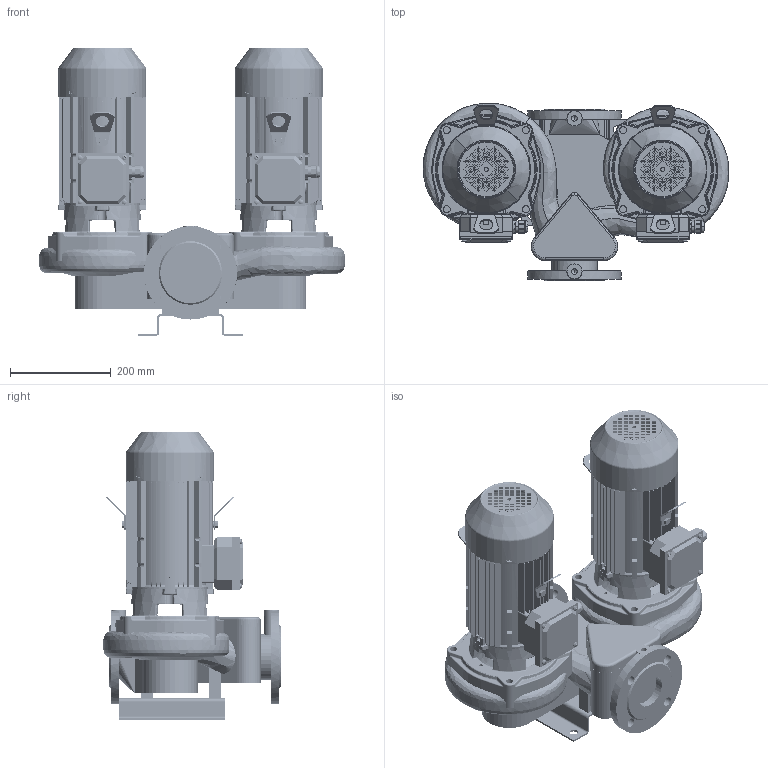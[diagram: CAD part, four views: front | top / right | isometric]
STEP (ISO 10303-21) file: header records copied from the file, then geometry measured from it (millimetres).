
FILE_DESCRIPTION(('STEP AP214'),'1');
FILE_NAME('export.stp','2018-05-30T07:47:34',(' '),(' '),'Spatial InterOp 3D',' ',' ');
FILE_SCHEMA(('AUTOMOTIVE_DESIGN { 1 0 10303 214 1 1 1 1 }'));
Length unit declared in the file: millimetre
Products named in the file (29): W_T65A4150KP90; V_TLL65AB80A1102; V_PPT65AB; V_JALKA35973; 160024; 160004_Valu; V_MKP90-2_F19; 480039; 480038___; 160141; 160137; 160138; 160139; 160140; Koura_Ale_M5; Plug_Blind_M20; Sealing_Plug_M20; DIN_7985-M5X8; DIN_7985-M5X12; 480037; 480036___; 160135; 160134; DIN_EN_24017_-_M8_16-Stainless_S
Assembly tree (54 placements, depth 4):
  W_T65A4150KP90
    V_TLL65AB80A1102  x2
    V_PPT65AB
    V_JALKA35973
    V_MKP90-2_F19
      160024
        160004_Valu
      480039
        480038___
      160141
        160137
        160138
        160139
        160140
        Koura_Ale_M5
        Plug_Blind_M20
        Sealing_Plug_M20
        DIN_7985-M5X8
        DIN_7985-M5X12  x4
      480037
        480036___
      160135
      160134  x2
      DIN_EN_24017_-_M8_16-Stainless_S  x2
    V_MKP90-2_F19
      160024
        160004_Valu
      480039
        480038___
      160141
        160137
        160138
        160139
        160140
        Koura_Ale_M5
        Plug_Blind_M20
        Sealing_Plug_M20
        DIN_7985-M5X8
        DIN_7985-M5X12  x4
      480037
        480036___
      160135
      160134  x2
      DIN_EN_24017_-_M8_16-Stainless_S  x2
Bounding box: 606.16 x 351.9 x 571 mm (x, y, z)
Volume: 18899932.3 mm3; surface area: 4645744.5 mm2
Topology: 44 solids, 44 shells, 5217 faces, 13750 edges, 8611 vertices
Faces by surface type: plane 2174, cylinder 1577, torus 562, bspline 508, cone 322, sphere 74
Entity records: 104454 total; most frequent: CARTESIAN_POINT 36103, ORIENTED_EDGE 13776, DIRECTION 12857, EDGE_CURVE 6888, AXIS2_PLACEMENT_3D 4854, VERTEX_POINT 4368, LINE 3149, VECTOR 3149
